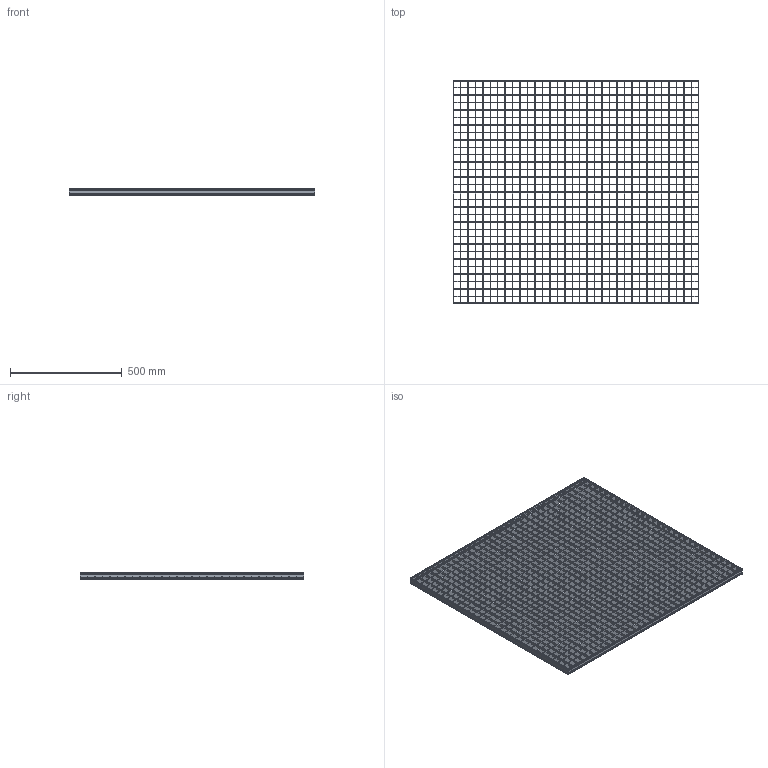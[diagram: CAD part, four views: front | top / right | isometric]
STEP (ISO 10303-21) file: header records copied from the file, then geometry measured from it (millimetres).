
FILE_DESCRIPTION(/* description */ ('STEP AP242','CAx-IF Rec.Pracs.---Representation and Presentation of Product Manufacturing Information (PMI)---4.0---2014-10-13','CAx-IF Rec.Pracs.---3D Tessellated Geometry---0.4---2014-09-14','2;1'),/* implementation_level */ '2;1');
FILE_NAME(/* name */ 'Lichtgitter_Pressure_locked_gratings P 230-33-2-1-1-1100-1000_(350_0)',/* time_stamp */ '2026-04-22T15:25:40+02:00',/* author */ ('License CC BY-ND 4.0'),/* organization */ ('CADENAS'),/* preprocessor_version */ 'ST-DEVELOPER v20',/* originating_system */ 'PARTsolutions',/* authorisation */ ' ');
FILE_SCHEMA (('AP242_MANAGED_MODEL_BASED_3D_ENGINEERING_MIM_LF { 1 0 10303 442 1 1 4 }'));
Length unit declared in the file: millimetre
Products named in the file (5): Lichtgitter_Pressure_locked_gratings P 230-33-2-1-1-1100-1000_(350_0); Lichtgitter P 230-33-2_(Pressroste_350_1_1000_1100)_VERTICAL; Lichtgitter P 230-33-2_(Pressroste_350_1_1000_1100)_HORIZONTAL_C; Lichtgitter P 230-33-2_(Pressroste_350_1_1000_1100)_HORIZONTAL; Lichtgitter P 230-33-2_(Pressroste_350_1_1000_1100)_VERTICAL_C
Assembly tree (65 placements, depth 2):
  Lichtgitter_Pressure_locked_gratings P 230-33-2-1-1-1100-1000_(350_0)
    Lichtgitter P 230-33-2_(Pressroste_350_1_1000_1100)_VERTICAL  x2
    Lichtgitter P 230-33-2_(Pressroste_350_1_1000_1100)_HORIZONTAL_C  x29
    Lichtgitter P 230-33-2_(Pressroste_350_1_1000_1100)_HORIZONTAL  x2
    Lichtgitter P 230-33-2_(Pressroste_350_1_1000_1100)_VERTICAL_C  x32
Bounding box: 1100 x 1000 x 30 mm (x, y, z)
Volume: 2793288.3 mm3; surface area: 3093051.8 mm2
Topology: 65 solids, 65 shells, 4150 faces, 12060 edges, 8040 vertices
Faces by surface type: plane 4118, cylinder 32
Entity records: 6267 total; most frequent: CARTESIAN_POINT 1082, DIRECTION 1020, ORIENTED_EDGE 1008, EDGE_CURVE 504, LINE 472, VECTOR 472, VERTEX_POINT 336, AXIS2_PLACEMENT_3D 274
